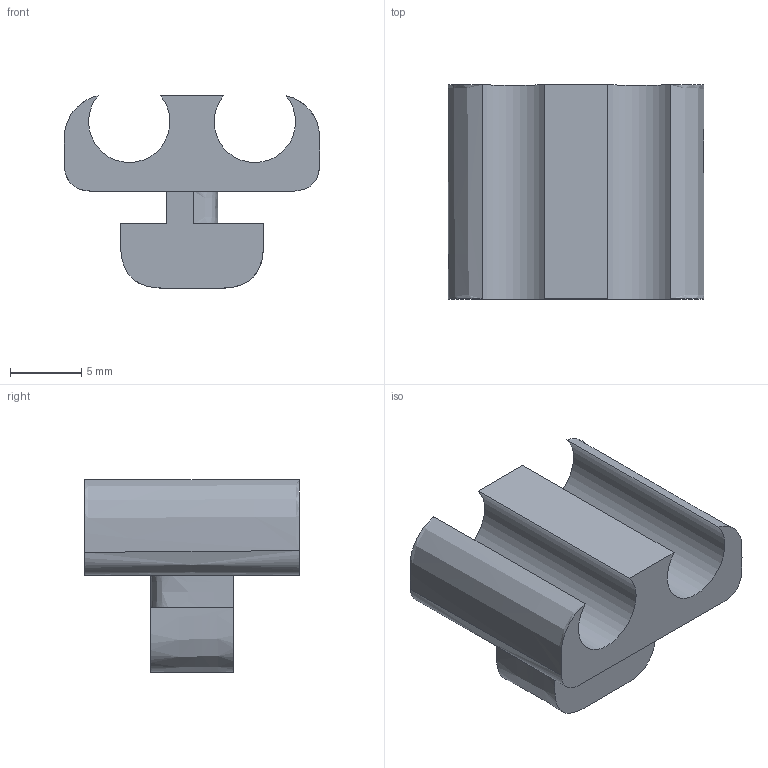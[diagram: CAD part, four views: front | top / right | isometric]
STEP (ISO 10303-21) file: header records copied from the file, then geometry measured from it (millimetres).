
FILE_DESCRIPTION(('Open CASCADE Model'),'2;1');
FILE_NAME('Open CASCADE Shape Model','2026-10-24T23:56:04',('Author'),( 'Open CASCADE'),'Open CASCADE STEP processor 7.9','Open CASCADE 7.9' ,'Unknown');
FILE_SCHEMA(('AUTOMOTIVE_DESIGN { 1 0 10303 214 1 1 1 1 }'));
Length unit declared in the file: millimetre
Products named in the file (1): Open CASCADE STEP translator 7.9 1
Bounding box: 17.91 x 15 x 13.49 mm (x, y, z)
Volume: 1339.9 mm3; surface area: 1314.2 mm2
Topology: 1 solids, 1 shells, 18 faces, 45 edges, 30 vertices
Faces by surface type: bspline 8, plane 8, cylinder 2
Entity records: 3017 total; most frequent: CARTESIAN_POINT 2235, DIRECTION 93, ORIENTED_EDGE 90, PCURVE 90, DEFINITIONAL_REPRESENTATION 90, B_SPLINE_CURVE_WITH_KNOTS 66, LINE 61, VECTOR 61
